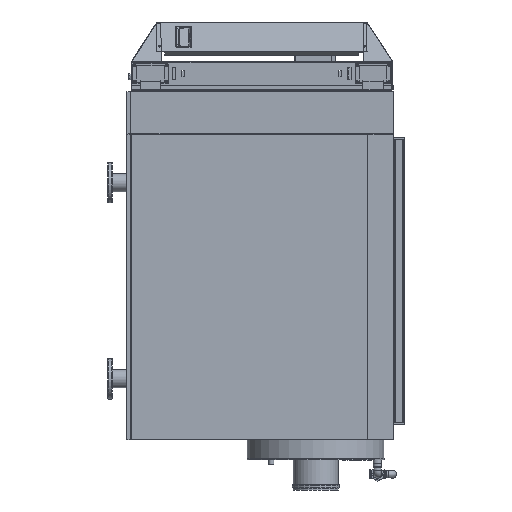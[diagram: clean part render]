
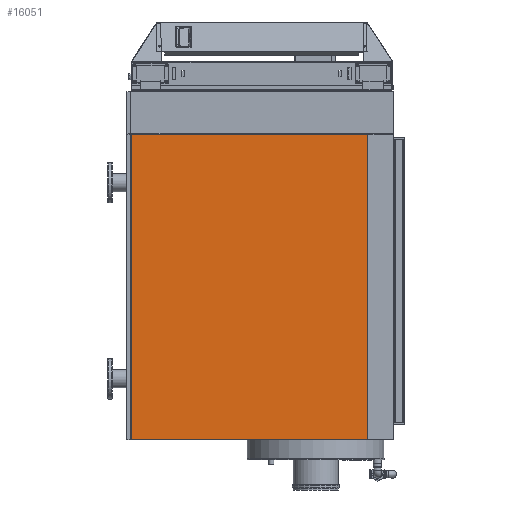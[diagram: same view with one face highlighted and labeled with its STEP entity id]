
A CAD part, left-side view. The second image highlights one B-rep face of the part: STEP entity #16051.
In plain terms, the highlighted planar face has unit normal (-1, 0, 0).
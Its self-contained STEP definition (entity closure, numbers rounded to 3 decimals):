
#5649 = DIRECTION ( 'NONE',  ( 0., 0., -1. ) ) ;
#8010 = CARTESIAN_POINT ( 'NONE',  ( 67.546, 672.672, -1489.15 ) ) ;
#11331 = ORIENTED_EDGE ( 'NONE', *, *, #46230, .T. ) ;
#15062 = VERTEX_POINT ( 'NONE', #73671 ) ;
#16051 = ADVANCED_FACE ( 'NONE', ( #25730 ), #79070, .F. ) ;
#22702 = AXIS2_PLACEMENT_3D ( 'NONE', #90311, #71372, #115211 ) ;
#24072 = ORIENTED_EDGE ( 'NONE', *, *, #93999, .T. ) ;
#25730 = FACE_OUTER_BOUND ( 'NONE', #66965, .T. ) ;
#27526 = CARTESIAN_POINT ( 'NONE',  ( 67.546, -496.478, -1489.15 ) ) ;
#32602 = CARTESIAN_POINT ( 'NONE',  ( 67.546, -497.328, 19.15 ) ) ;
#36402 = LINE ( 'NONE', #8010, #91769 ) ;
#44748 = VECTOR ( 'NONE', #58616, 1000. ) ;
#46230 = EDGE_CURVE ( 'NONE', #49037, #114508, #68215, .T. ) ;
#49037 = VERTEX_POINT ( 'NONE', #115502 ) ;
#52178 = DIRECTION ( 'NONE',  ( 0., 1., 0. ) ) ;
#53641 = DIRECTION ( 'NONE',  ( 0., -1., 0. ) ) ;
#57606 = EDGE_CURVE ( 'NONE', #15062, #100970, #36402, .T. ) ;
#58616 = DIRECTION ( 'NONE',  ( 0., 0., 1. ) ) ;
#66681 = VECTOR ( 'NONE', #52178, 1000. ) ;
#66965 = EDGE_LOOP ( 'NONE', ( #24072, #11331, #68178, #109480 ) ) ;
#68178 = ORIENTED_EDGE ( 'NONE', *, *, #78665, .T. ) ;
#68215 = LINE ( 'NONE', #32602, #66681 ) ;
#71372 = DIRECTION ( 'NONE',  ( 1., 0., 0. ) ) ;
#73671 = CARTESIAN_POINT ( 'NONE',  ( 67.546, 671.822, -1489.15 ) ) ;
#78202 = CARTESIAN_POINT ( 'NONE',  ( 67.546, 671.822, 19.15 ) ) ;
#78665 = EDGE_CURVE ( 'NONE', #114508, #15062, #115258, .T. ) ;
#79070 = PLANE ( 'NONE',  #22702 ) ;
#86838 = CARTESIAN_POINT ( 'NONE',  ( 67.546, 671.822, 7570. ) ) ;
#90311 = CARTESIAN_POINT ( 'NONE',  ( 67.546, 672.672, 20. ) ) ;
#91769 = VECTOR ( 'NONE', #53641, 1000. ) ;
#93999 = EDGE_CURVE ( 'NONE', #100970, #49037, #103631, .T. ) ;
#98617 = VECTOR ( 'NONE', #5649, 1000. ) ;
#100970 = VERTEX_POINT ( 'NONE', #27526 ) ;
#103631 = LINE ( 'NONE', #104793, #44748 ) ;
#104793 = CARTESIAN_POINT ( 'NONE',  ( 67.546, -496.478, -1490. ) ) ;
#109480 = ORIENTED_EDGE ( 'NONE', *, *, #57606, .T. ) ;
#114508 = VERTEX_POINT ( 'NONE', #78202 ) ;
#115211 = DIRECTION ( 'NONE',  ( 0., 0., -1. ) ) ;
#115258 = LINE ( 'NONE', #86838, #98617 ) ;
#115502 = CARTESIAN_POINT ( 'NONE',  ( 67.546, -496.478, 19.15 ) ) ;
